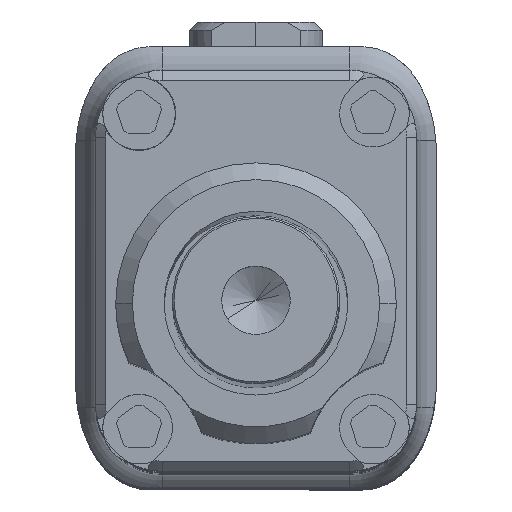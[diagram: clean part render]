
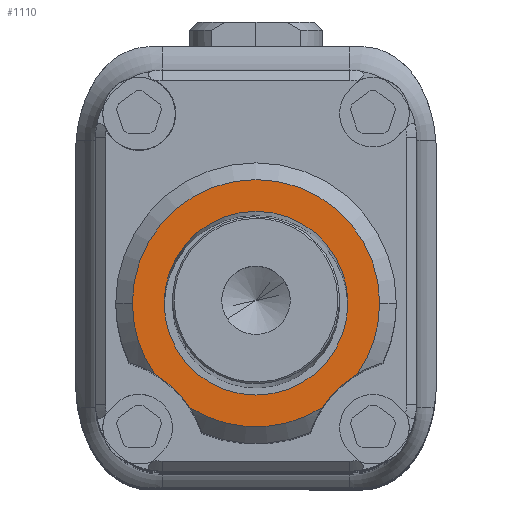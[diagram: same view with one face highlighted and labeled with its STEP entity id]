
A CAD part, top view. The second image highlights one B-rep face of the part: STEP entity #1110.
In plain terms, the highlighted planar face has unit normal (0, 0, 1) as drawn and (0, 0, -1) by its records, which use the part's own axes.
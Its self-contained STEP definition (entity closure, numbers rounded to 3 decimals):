
#1110 = ADVANCED_FACE ( 'NONE', ( #24084, #29678 ), #24700, .T. ) ;
#1660 = EDGE_CURVE ( 'NONE', #54646, #61402, #19085, .T. ) ;
#2825 = CARTESIAN_POINT ( 'NONE',  ( 0., 0.2, -33.5 ) ) ;
#3944 = VERTEX_POINT ( 'NONE', #15335 ) ;
#3963 = CARTESIAN_POINT ( 'NONE',  ( 0., 0.2, -33.5 ) ) ;
#4157 = EDGE_CURVE ( 'NONE', #38877, #3944, #4519, .T. ) ;
#4519 = CIRCLE ( 'NONE', #12443, 3.2 ) ;
#6062 = ORIENTED_EDGE ( 'NONE', *, *, #34134, .F. ) ;
#6975 = AXIS2_PLACEMENT_3D ( 'NONE', #61200, #56546, #12665 ) ;
#10703 = EDGE_LOOP ( 'NONE', ( #11009, #6062 ) ) ;
#11009 = ORIENTED_EDGE ( 'NONE', *, *, #55633, .F. ) ;
#12398 = DIRECTION ( 'NONE',  ( -1., 0., 0. ) ) ;
#12443 = AXIS2_PLACEMENT_3D ( 'NONE', #51609, #60636, #12398 ) ;
#12451 = DIRECTION ( 'NONE',  ( 0., 0., -1. ) ) ;
#12665 = DIRECTION ( 'NONE',  ( -1., 0., 0. ) ) ;
#13726 = DIRECTION ( 'NONE',  ( 0., 0., -1. ) ) ;
#13897 = CARTESIAN_POINT ( 'NONE',  ( 2.75, 0.2, -33.5 ) ) ;
#14321 = EDGE_CURVE ( 'NONE', #3944, #61402, #17276, .T. ) ;
#14956 = EDGE_CURVE ( 'NONE', #54646, #31253, #44713, .T. ) ;
#15071 = DIRECTION ( 'NONE',  ( 0., 0., -1. ) ) ;
#15094 = EDGE_CURVE ( 'NONE', #26742, #38877, #58638, .T. ) ;
#15335 = CARTESIAN_POINT ( 'NONE',  ( 1.983, -2.924, -33.5 ) ) ;
#15848 = AXIS2_PLACEMENT_3D ( 'NONE', #30308, #15071, #44298 ) ;
#15975 = DIRECTION ( 'NONE',  ( -1., 0., 0. ) ) ;
#16815 = CIRCLE ( 'NONE', #15848, 2.75 ) ;
#17276 = CIRCLE ( 'NONE', #60619, 3.7 ) ;
#17629 = DIRECTION ( 'NONE',  ( -1., 0., 0. ) ) ;
#19085 = CIRCLE ( 'NONE', #34999, 3.2 ) ;
#20011 = CARTESIAN_POINT ( 'NONE',  ( -2.75, 0.2, -33.5 ) ) ;
#23237 = EDGE_CURVE ( 'NONE', #31253, #26742, #24812, .T. ) ;
#24084 = FACE_OUTER_BOUND ( 'NONE', #59631, .T. ) ;
#24471 = DIRECTION ( 'NONE',  ( 0., 0., -1. ) ) ;
#24700 = PLANE ( 'NONE',  #52865 ) ;
#24812 = CIRCLE ( 'NONE', #41660, 3.7 ) ;
#25051 = ORIENTED_EDGE ( 'NONE', *, *, #14956, .T. ) ;
#25327 = CARTESIAN_POINT ( 'NONE',  ( 0., 0.2, -33.5 ) ) ;
#26742 = VERTEX_POINT ( 'NONE', #56151 ) ;
#26853 = CARTESIAN_POINT ( 'NONE',  ( 3.038, -1.912, -33.5 ) ) ;
#28847 = DIRECTION ( 'NONE',  ( -1., 0., 0. ) ) ;
#29678 = FACE_BOUND ( 'NONE', #10703, .T. ) ;
#29775 = CARTESIAN_POINT ( 'NONE',  ( -3.7, 0.2, -33.5 ) ) ;
#30103 = ORIENTED_EDGE ( 'NONE', *, *, #14321, .T. ) ;
#30308 = CARTESIAN_POINT ( 'NONE',  ( 0., 0.2, -33.5 ) ) ;
#31253 = VERTEX_POINT ( 'NONE', #29775 ) ;
#32246 = VERTEX_POINT ( 'NONE', #20011 ) ;
#32727 = DIRECTION ( 'NONE',  ( -1., 0., 0. ) ) ;
#33866 = CARTESIAN_POINT ( 'NONE',  ( -1.983, -2.924, -33.5 ) ) ;
#34134 = EDGE_CURVE ( 'NONE', #32246, #34293, #60569, .T. ) ;
#34293 = VERTEX_POINT ( 'NONE', #13897 ) ;
#34999 = AXIS2_PLACEMENT_3D ( 'NONE', #41213, #40602, #46196 ) ;
#36398 = DIRECTION ( 'NONE',  ( -1., 0., 0. ) ) ;
#36445 = CARTESIAN_POINT ( 'NONE',  ( 0., 0.2, -33.5 ) ) ;
#37091 = ORIENTED_EDGE ( 'NONE', *, *, #15094, .T. ) ;
#37900 = ORIENTED_EDGE ( 'NONE', *, *, #1660, .F. ) ;
#38877 = VERTEX_POINT ( 'NONE', #26853 ) ;
#40070 = ORIENTED_EDGE ( 'NONE', *, *, #23237, .T. ) ;
#40602 = DIRECTION ( 'NONE',  ( 0., 0., -1. ) ) ;
#41213 = CARTESIAN_POINT ( 'NONE',  ( -4.667, -4.667, -33.5 ) ) ;
#41660 = AXIS2_PLACEMENT_3D ( 'NONE', #2825, #12451, #36398 ) ;
#41734 = AXIS2_PLACEMENT_3D ( 'NONE', #57156, #24471, #28847 ) ;
#44298 = DIRECTION ( 'NONE',  ( -1., 0., 0. ) ) ;
#44713 = CIRCLE ( 'NONE', #6975, 3.7 ) ;
#46196 = DIRECTION ( 'NONE',  ( -1., 0., 0. ) ) ;
#48824 = CARTESIAN_POINT ( 'NONE',  ( -3.038, -1.912, -33.5 ) ) ;
#51609 = CARTESIAN_POINT ( 'NONE',  ( 4.667, -4.667, -33.5 ) ) ;
#52865 = AXIS2_PLACEMENT_3D ( 'NONE', #25327, #57703, #15975 ) ;
#54646 = VERTEX_POINT ( 'NONE', #48824 ) ;
#55026 = ORIENTED_EDGE ( 'NONE', *, *, #4157, .T. ) ;
#55302 = DIRECTION ( 'NONE',  ( 0., 0., -1. ) ) ;
#55633 = EDGE_CURVE ( 'NONE', #34293, #32246, #16815, .T. ) ;
#56151 = CARTESIAN_POINT ( 'NONE',  ( 3.7, 0.2, -33.5 ) ) ;
#56546 = DIRECTION ( 'NONE',  ( 0., 0., -1. ) ) ;
#57156 = CARTESIAN_POINT ( 'NONE',  ( 0., 0.2, -33.5 ) ) ;
#57703 = DIRECTION ( 'NONE',  ( 0., 0., -1. ) ) ;
#58638 = CIRCLE ( 'NONE', #41734, 3.7 ) ;
#59631 = EDGE_LOOP ( 'NONE', ( #55026, #30103, #37900, #25051, #40070, #37091 ) ) ;
#60569 = CIRCLE ( 'NONE', #61542, 2.75 ) ;
#60619 = AXIS2_PLACEMENT_3D ( 'NONE', #36445, #13726, #32727 ) ;
#60636 = DIRECTION ( 'NONE',  ( 0., 0., 1. ) ) ;
#61200 = CARTESIAN_POINT ( 'NONE',  ( 0., 0.2, -33.5 ) ) ;
#61402 = VERTEX_POINT ( 'NONE', #33866 ) ;
#61542 = AXIS2_PLACEMENT_3D ( 'NONE', #3963, #55302, #17629 ) ;
